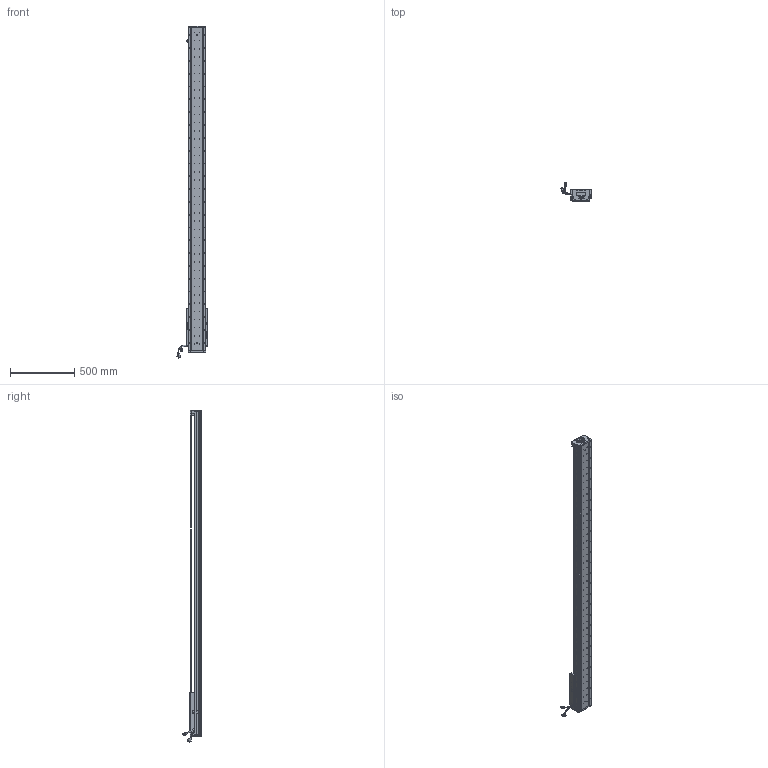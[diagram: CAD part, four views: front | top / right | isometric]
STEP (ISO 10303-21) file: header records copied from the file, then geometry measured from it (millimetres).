
FILE_DESCRIPTION (( 'STEP AP203' ), '1' );
FILE_NAME ('Z4-RY140D-1-L500-B-K.SLDASM_2150.step', '2021-05-17T08:18:45', ( '盈信电脑' ), ( '东莞市道滘镇水果街19号' ), 'SwSTEP 2.0', 'SolidWorks 2016', '' );
FILE_SCHEMA (( 'CONFIG_CONTROL_DESIGN' ));
Length unit declared in the file: millimetre
Products named in the file (36): SCREW-M1.6-1; COVER; SCALE-Part-1; Z4-RY140-L500直线电机模组底座_2150; LABEL-Part-1; SCALE; 詩湍奻揤裔; 榋妏寠巭燃_暯_M2_2; SCALE-Part-2; SEAL-Part-1; HARNESS-Part-2; SCREW-M1.6-2; Z4-RY140圉猾敕臏賑輸(21遴); PBU_SHEET; 080黍杅芛假蚾釱21遴; Z4-RY140-L500詩湍100mm遵_2150; 140雄赽晤鎢ん堤盄; Z-RY140感应器672光电感应片; Z-140詩湍傷裔啣; COVER-Part-1; 140-Z-臏賑輸盄裔(21遴); 詩湍狟揤裔; HARNESS; SHIELDPLATE; HARNESS-Part-1; 覜茼ん672; SCREW-M1.6-3; LABEL; SEAL; SCREW-M1.7-1; HOLDER0; SCREW-M1.7; 140蚥薯蝶輸; SCREW-M1.6; PSLH080_PSLF2; Z4-RY140D-1-L500-B-K.SLDASM_2150
Assembly tree (41 placements, depth 4):
  Z4-RY140D-1-L500-B-K.SLDASM_2150
    Z4-RY140-L500直线电机模组底座_2150
    Z-RY140感应器672光电感应片
    Z4-RY140圉猾敕臏賑輸(21遴)
    覜茼ん672  x3
    Z4-RY140-L500詩湍100mm遵_2150
    PSLH080_PSLF2
      SCALE
        SCALE-Part-1
        SCALE-Part-2
      HARNESS
        HARNESS-Part-1
        HARNESS-Part-2
      LABEL
        LABEL-Part-1
      COVER
        COVER-Part-1
      SEAL
        SEAL-Part-1
      榋妏寠巭燃_暯_M2_2
      SHIELDPLATE
      SCREW-M1.7
      SCREW-M1.7-1
      PBU_SHEET
      SCREW-M1.6
      SCREW-M1.6-1
      SCREW-M1.6-2
      SCREW-M1.6-3
      HOLDER0
    080黍杅芛假蚾釱21遴
    140-Z-臏賑輸盄裔(21遴)
    Z-140詩湍傷裔啣  x2
    詩湍狟揤裔  x2
    詩湍奻揤裔  x2
    140蚥薯蝶輸  x2
    140雄赽晤鎢ん堤盄
Bounding box: 239.84 x 143.88 x 2590.87 mm (x, y, z)
Volume: 8532450.8 mm3; surface area: 2201098.2 mm2
Topology: 36 solids, 36 shells, 4066 faces, 11044 edges, 6995 vertices
Faces by surface type: cylinder 2190, plane 1356, cone 398, torus 69, bspline 53
Entity records: 128588 total; most frequent: CARTESIAN_POINT 36141, ORIENTED_EDGE 19016, DIRECTION 17672, EDGE_CURVE 9508, AXIS2_PLACEMENT_3D 6574, VERTEX_POINT 6163, VECTOR 4524, LINE 4524
